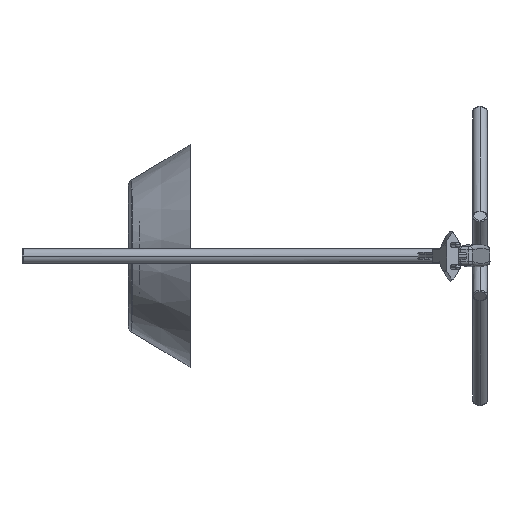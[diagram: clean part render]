
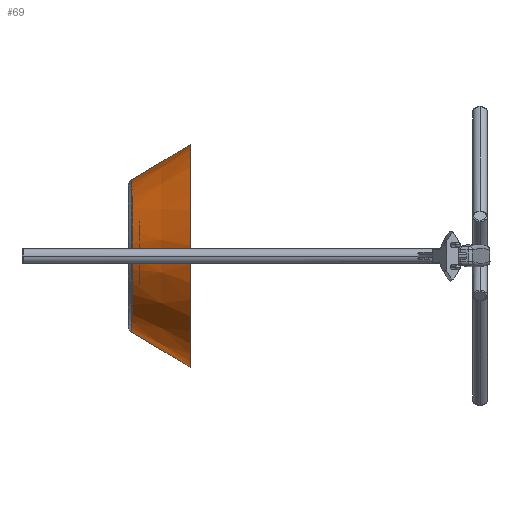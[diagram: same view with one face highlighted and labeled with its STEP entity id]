
A CAD part, left-side view. The second image highlights one B-rep face of the part: STEP entity #69.
In plain terms, the highlighted conical face has half-angle 30.964 degrees and reference radius 60 mm.
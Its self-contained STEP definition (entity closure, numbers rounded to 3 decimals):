
#69 = ADVANCED_FACE ( 'NONE', ( #712 ), #3954, .T. ) ;
#607 = EDGE_CURVE ( 'NONE', #8728, #8590, #2263, .T. ) ;
#712 = FACE_OUTER_BOUND ( 'NONE', #7005, .T. ) ;
#751 = DIRECTION ( 'NONE',  ( 0., -1., 0. ) ) ;
#1245 = CARTESIAN_POINT ( 'NONE',  ( 100.193, -80., -90.005 ) ) ;
#1460 = CARTESIAN_POINT ( 'NONE',  ( 27.937, -80., -45.176 ) ) ;
#1682 = CARTESIAN_POINT ( 'NONE',  ( 20.624, -80., -29.079 ) ) ;
#1915 = ORIENTED_EDGE ( 'NONE', *, *, #5224, .T. ) ;
#1941 = DIRECTION ( 'NONE',  ( 0.001, 0., -1. ) ) ;
#2187 = CARTESIAN_POINT ( 'NONE',  ( 106.056, -30., -60. ) ) ;
#2263 = LINE ( 'NONE', #2187, #4861 ) ;
#2271 = CARTESIAN_POINT ( 'NONE',  ( 38.251, -80., -59.537 ) ) ;
#2549 = CARTESIAN_POINT ( 'NONE',  ( 82.584, -80., 87.1 ) ) ;
#2694 = CARTESIAN_POINT ( 'NONE',  ( 27.853, -80., 45.031 ) ) ;
#2976 = CARTESIAN_POINT ( 'NONE',  ( 105.944, -30., 60. ) ) ;
#3213 = DIRECTION ( 'NONE',  ( 0., -0.857, -0.514 ) ) ;
#3353 = CARTESIAN_POINT ( 'NONE',  ( 94.302, -80., -89.431 ) ) ;
#3560 = CARTESIAN_POINT ( 'NONE',  ( 18.857, -80., 23.254 ) ) ;
#3636 = CARTESIAN_POINT ( 'NONE',  ( 66.041, -80., 80.858 ) ) ;
#3954 = CONICAL_SURFACE ( 'NONE', #10169, 60., 0.54 ) ;
#4344 = ORIENTED_EDGE ( 'NONE', *, *, #10637, .T. ) ;
#4506 = CARTESIAN_POINT ( 'NONE',  ( 46.589, -80., -67.86 ) ) ;
#4648 = CARTESIAN_POINT ( 'NONE',  ( 76.921, -80., 85.376 ) ) ;
#4792 = CARTESIAN_POINT ( 'NONE',  ( 20.57, -80., 28.92 ) ) ;
#4861 = VECTOR ( 'NONE', #3213, 1000. ) ;
#4863 = CARTESIAN_POINT ( 'NONE',  ( 38.14, -80., 59.411 ) ) ;
#5224 = EDGE_CURVE ( 'NONE', #8590, #13440, #11820, .T. ) ;
#5581 = CARTESIAN_POINT ( 'NONE',  ( 77.08, -80., -85.43 ) ) ;
#5798 = CARTESIAN_POINT ( 'NONE',  ( 25.068, -80., 39.808 ) ) ;
#6084 = CARTESIAN_POINT ( 'NONE',  ( 51.034, -80., 71.509 ) ) ;
#6619 = VECTOR ( 'NONE', #12791, 1000. ) ;
#6813 = CARTESIAN_POINT ( 'NONE',  ( 60.969, -80., -78.147 ) ) ;
#6960 = CARTESIAN_POINT ( 'NONE',  ( 16.591, -80., -11.864 ) ) ;
#7005 = EDGE_LOOP ( 'NONE', ( #11269, #4344, #13075, #1915 ) ) ;
#7024 = CARTESIAN_POINT ( 'NONE',  ( 16.569, -80., 11.698 ) ) ;
#7103 = CARTESIAN_POINT ( 'NONE',  ( 94.136, -80., 89.409 ) ) ;
#7303 = LINE ( 'NONE', #2976, #6619 ) ;
#7577 = CIRCLE ( 'NONE', #9156, 61.457 ) ;
#7769 = CARTESIAN_POINT ( 'NONE',  ( 82.746, -80., -87.143 ) ) ;
#7905 = CARTESIAN_POINT ( 'NONE',  ( 34.491, -80., -54.966 ) ) ;
#8142 = VERTEX_POINT ( 'NONE', #10907 ) ;
#8590 = VERTEX_POINT ( 'NONE', #10524 ) ;
#8631 = CARTESIAN_POINT ( 'NONE',  ( 106., -32.428, 0. ) ) ;
#8728 = VERTEX_POINT ( 'NONE', #13946 ) ;
#8987 = CARTESIAN_POINT ( 'NONE',  ( 51.167, -80., -71.611 ) ) ;
#9049 = CARTESIAN_POINT ( 'NONE',  ( 34.389, -80., 54.833 ) ) ;
#9113 = CARTESIAN_POINT ( 'NONE',  ( 100.026, -80., 89.994 ) ) ;
#9156 = AXIS2_PLACEMENT_3D ( 'NONE', #8631, #751, #11655 ) ;
#9263 = CARTESIAN_POINT ( 'NONE',  ( 18.9, -80., -23.416 ) ) ;
#10066 = CARTESIAN_POINT ( 'NONE',  ( 66.192, -80., -80.932 ) ) ;
#10169 = AXIS2_PLACEMENT_3D ( 'NONE', #13933, #11842, #1941 ) ;
#10278 = CARTESIAN_POINT ( 'NONE',  ( 16.006, -80., -5.974 ) ) ;
#10354 = CARTESIAN_POINT ( 'NONE',  ( 15.995, -80., 5.807 ) ) ;
#10425 = CARTESIAN_POINT ( 'NONE',  ( 60.824, -80., 78.063 ) ) ;
#10524 = CARTESIAN_POINT ( 'NONE',  ( 106.084, -80., -90. ) ) ;
#10630 = CARTESIAN_POINT ( 'NONE',  ( 105.916, -80., 90. ) ) ;
#10637 = EDGE_CURVE ( 'NONE', #8142, #8728, #7577, .T. ) ;
#10907 = CARTESIAN_POINT ( 'NONE',  ( 105.943, -32.428, 61.456 ) ) ;
#11149 = CARTESIAN_POINT ( 'NONE',  ( 106.084, -80., -90. ) ) ;
#11269 = ORIENTED_EDGE ( 'NONE', *, *, #12801, .F. ) ;
#11433 = CARTESIAN_POINT ( 'NONE',  ( 105.916, -80., 90. ) ) ;
#11581 = CARTESIAN_POINT ( 'NONE',  ( 25.142, -80., -39.959 ) ) ;
#11655 = DIRECTION ( 'NONE',  ( -0.001, 0., 1. ) ) ;
#11820 = B_SPLINE_CURVE_WITH_KNOTS ( 'NONE', 3,
 ( #11149, #1245, #3353, #7769, #5581, #10066, #6813, #8987, #4506, #2271, #7905, #1460, #11581, #1682, #9263, #6960, #10278, #10354, #7024, #3560, #4792, #5798, #2694, #9049, #4863, #13673, #6084, #10425, #3636, #4648, #2549, #7103, #9113, #11433 ),
 .UNSPECIFIED., .F., .F.,
 ( 4, 2, 2, 2, 2, 2, 2, 2, 2, 2, 2, 2, 2, 2, 2, 2, 4 ),
 ( 0.5, 0.531, 0.563, 0.594, 0.625, 0.656, 0.688, 0.719, 0.75, 0.781, 0.813, 0.844, 0.875, 0.906, 0.938, 0.969, 1. ),
 .UNSPECIFIED. ) ;
#11842 = DIRECTION ( 'NONE',  ( 0., -1., 0. ) ) ;
#12791 = DIRECTION ( 'NONE',  ( 0., -0.857, 0.514 ) ) ;
#12801 = EDGE_CURVE ( 'NONE', #8142, #13440, #7303, .T. ) ;
#13075 = ORIENTED_EDGE ( 'NONE', *, *, #607, .T. ) ;
#13440 = VERTEX_POINT ( 'NONE', #10630 ) ;
#13673 = CARTESIAN_POINT ( 'NONE',  ( 46.463, -80., 67.749 ) ) ;
#13933 = CARTESIAN_POINT ( 'NONE',  ( 106., -30., 0. ) ) ;
#13946 = CARTESIAN_POINT ( 'NONE',  ( 106.057, -32.428, -61.456 ) ) ;
